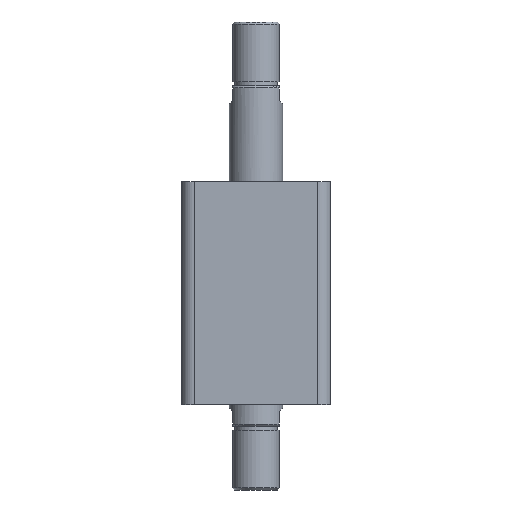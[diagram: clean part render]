
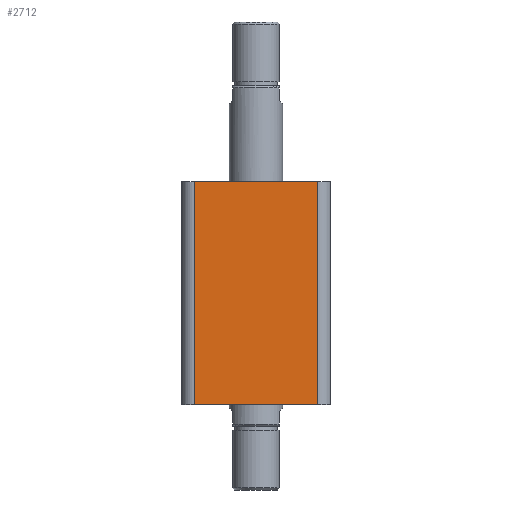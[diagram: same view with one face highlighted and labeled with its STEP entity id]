
A CAD part, front view. The second image highlights one B-rep face of the part: STEP entity #2712.
In plain terms, the highlighted planar face has unit normal (0, -1, 0).
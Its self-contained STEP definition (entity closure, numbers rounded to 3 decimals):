
#10 = EDGE_CURVE ( 'NONE', #1726, #3018, #374, .T. ) ;
#11 = EDGE_CURVE ( 'NONE', #1726, #1405, #376, .T. ) ;
#12 = EDGE_CURVE ( 'NONE', #1405, #1406, #368, .T. ) ;
#13 = EDGE_CURVE ( 'NONE', #1406, #3018, #380, .T. ) ;
#368 = LINE ( 'NONE', #3038, #381 ) ;
#374 = LINE ( 'NONE', #1423, #377 ) ;
#376 = LINE ( 'NONE', #1421, #379 ) ;
#377 = VECTOR ( 'NONE', #1422, 1000. ) ;
#379 = VECTOR ( 'NONE', #1419, 1000. ) ;
#380 = LINE ( 'NONE', #1417, #383 ) ;
#381 = VECTOR ( 'NONE', #1418, 1000. ) ;
#383 = VECTOR ( 'NONE', #1416, 1000. ) ;
#711 = CARTESIAN_POINT ( 'NONE',  ( -29., -35., 0. ) ) ;
#712 = CARTESIAN_POINT ( 'NONE',  ( 29., -35., 0. ) ) ;
#1123 = CARTESIAN_POINT ( 'NONE',  ( -29., -35., 105. ) ) ;
#1342 = CARTESIAN_POINT ( 'NONE',  ( -35., -35., 105. ) ) ;
#1344 = PLANE ( 'NONE',  #2864 ) ;
#1346 = DIRECTION ( 'NONE',  ( 0., 1., 0. ) ) ;
#1347 = DIRECTION ( 'NONE',  ( 0., 0., 1. ) ) ;
#1405 = VERTEX_POINT ( 'NONE', #711 ) ;
#1406 = VERTEX_POINT ( 'NONE', #712 ) ;
#1416 = DIRECTION ( 'NONE',  ( 0., 0., 1. ) ) ;
#1417 = CARTESIAN_POINT ( 'NONE',  ( 29., -35., 105. ) ) ;
#1418 = DIRECTION ( 'NONE',  ( 1., 0., 0. ) ) ;
#1419 = DIRECTION ( 'NONE',  ( 0., 0., -1. ) ) ;
#1421 = CARTESIAN_POINT ( 'NONE',  ( -29., -35., 105. ) ) ;
#1422 = DIRECTION ( 'NONE',  ( 1., 0., 0. ) ) ;
#1423 = CARTESIAN_POINT ( 'NONE',  ( -35., -35., 105. ) ) ;
#1726 = VERTEX_POINT ( 'NONE', #1123 ) ;
#1820 = ORIENTED_EDGE ( 'NONE', *, *, #10, .F. ) ;
#1821 = ORIENTED_EDGE ( 'NONE', *, *, #11, .T. ) ;
#1822 = ORIENTED_EDGE ( 'NONE', *, *, #12, .T. ) ;
#1823 = ORIENTED_EDGE ( 'NONE', *, *, #13, .T. ) ;
#2582 = CARTESIAN_POINT ( 'NONE',  ( 29., -35., 105. ) ) ;
#2712 = ADVANCED_FACE ( 'NONE', ( #3151 ), #1344, .F. ) ;
#2864 = AXIS2_PLACEMENT_3D ( 'NONE', #1342, #1346, #1347 ) ;
#3018 = VERTEX_POINT ( 'NONE', #2582 ) ;
#3019 = EDGE_LOOP ( 'NONE', ( #1820, #1821, #1822, #1823 ) ) ;
#3038 = CARTESIAN_POINT ( 'NONE',  ( -35., -35., 0. ) ) ;
#3151 = FACE_OUTER_BOUND ( 'NONE', #3019, .T. ) ;
